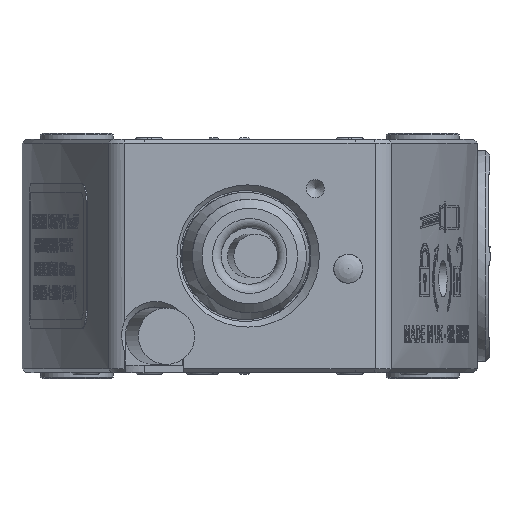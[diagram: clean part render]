
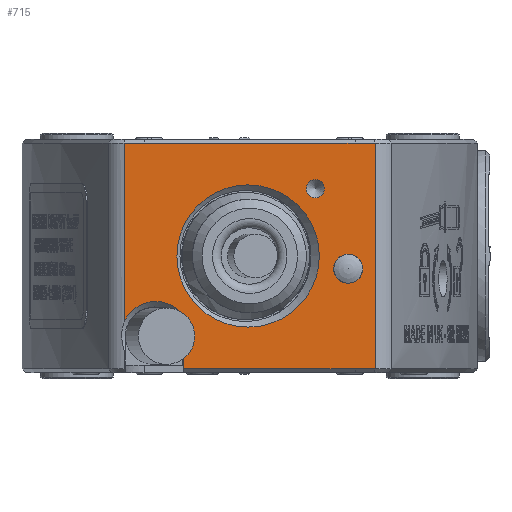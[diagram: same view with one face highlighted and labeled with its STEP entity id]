
A CAD part, left-side view. The second image highlights one B-rep face of the part: STEP entity #715.
In plain terms, the highlighted planar face has unit normal (-1, 0, 0).
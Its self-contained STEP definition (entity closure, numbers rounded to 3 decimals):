
#715 = ADVANCED_FACE( '', ( #5957, #5958, #5959, #5960 ), #5961, .T. );
#5957 = FACE_BOUND( '', #15589, .T. );
#5958 = FACE_BOUND( '', #15590, .T. );
#5959 = FACE_OUTER_BOUND( '', #15591, .T. );
#5960 = FACE_BOUND( '', #15592, .T. );
#5961 = PLANE( '', #15593 );
#15589 = EDGE_LOOP( '', ( #30123 ) );
#15590 = EDGE_LOOP( '', ( #30124 ) );
#15591 = EDGE_LOOP( '', ( #30125, #30126, #30127, #30128, #30129, #30130 ) );
#15592 = EDGE_LOOP( '', ( #30131 ) );
#15593 = AXIS2_PLACEMENT_3D( '', #30132, #30133, #30134 );
#30123 = ORIENTED_EDGE( '', *, *, #65708, .T. );
#30124 = ORIENTED_EDGE( '', *, *, #65709, .F. );
#30125 = ORIENTED_EDGE( '', *, *, #65710, .F. );
#30126 = ORIENTED_EDGE( '', *, *, #64579, .T. );
#30127 = ORIENTED_EDGE( '', *, *, #65671, .F. );
#30128 = ORIENTED_EDGE( '', *, *, #65688, .T. );
#30129 = ORIENTED_EDGE( '', *, *, #65618, .T. );
#30130 = ORIENTED_EDGE( '', *, *, #65607, .T. );
#30131 = ORIENTED_EDGE( '', *, *, #65609, .T. );
#30132 = CARTESIAN_POINT( '', ( -100., 13.781, 12. ) );
#30133 = DIRECTION( '', ( -1., 0., 0. ) );
#30134 = DIRECTION( '', ( 0., -1., 0. ) );
#64579 = EDGE_CURVE( '', #77330, #77334, #77336, .T. );
#65607 = EDGE_CURVE( '', #79141, #79139, #79142, .T. );
#65609 = EDGE_CURVE( '', #79144, #79144, #79145, .T. );
#65618 = EDGE_CURVE( '', #79156, #79141, #79161, .T. );
#65671 = EDGE_CURVE( '', #79261, #77334, #79263, .T. );
#65688 = EDGE_CURVE( '', #79261, #79156, #79288, .T. );
#65708 = EDGE_CURVE( '', #79321, #79321, #79322, .T. );
#65709 = EDGE_CURVE( '', #79323, #79323, #79324, .T. );
#65710 = EDGE_CURVE( '', #77330, #79139, #79325, .T. );
#77330 = VERTEX_POINT( '', #98847 );
#77334 = VERTEX_POINT( '', #98852 );
#77336 = LINE( '', #98854, #98855 );
#79139 = VERTEX_POINT( '', #102377 );
#79141 = VERTEX_POINT( '', #102380 );
#79142 = LINE( '', #102381, #102382 );
#79144 = VERTEX_POINT( '', #102393 );
#79145 = ELLIPSE( '', #102394, 7.818, 7.808 );
#79156 = VERTEX_POINT( '', #102406 );
#79161 = ELLIPSE( '', #102429, 3.807, 3.802 );
#79261 = VERTEX_POINT( '', #102540 );
#79263 = LINE( '', #102545, #102546 );
#79288 = LINE( '', #102600, #102601 );
#79321 = VERTEX_POINT( '', #102695 );
#79322 = CIRCLE( '', #102696, 1. );
#79323 = VERTEX_POINT( '', #102697 );
#79324 = ELLIPSE( '', #102698, 1.588, 1.588 );
#79325 = LINE( '', #102699, #102700 );
#98847 = CARTESIAN_POINT( '', ( -100., -13.781, -12.4 ) );
#98852 = CARTESIAN_POINT( '', ( -100., -13.781, 12.4 ) );
#98854 = CARTESIAN_POINT( '', ( -100., -13.781, 12. ) );
#98855 = VECTOR( '', #134094, 1000. );
#102377 = CARTESIAN_POINT( '', ( -100., 7.246, -12.4 ) );
#102380 = CARTESIAN_POINT( '', ( -100., 7.246, -11.05 ) );
#102381 = CARTESIAN_POINT( '', ( -100., 7.246, 1.6 ) );
#102382 = VECTOR( '', #135630, 1000. );
#102393 = CARTESIAN_POINT( '', ( -100., 7.982, 0. ) );
#102394 = AXIS2_PLACEMENT_3D( '', #135631, #135632, #135633 );
#102406 = CARTESIAN_POINT( '', ( -100., 13.781, -7.228 ) );
#102429 = AXIS2_PLACEMENT_3D( '', #135650, #135651, #135652 );
#102540 = CARTESIAN_POINT( '', ( -100., 13.781, 12.4 ) );
#102545 = CARTESIAN_POINT( '', ( -100., 16.77, 12.4 ) );
#102546 = VECTOR( '', #135790, 1000. );
#102600 = CARTESIAN_POINT( '', ( -100., 13.781, 12. ) );
#102601 = VECTOR( '', #135811, 1000. );
#102695 = CARTESIAN_POINT( '', ( -100., -7.228, 8.4 ) );
#102696 = AXIS2_PLACEMENT_3D( '', #135839, #135840, #135841 );
#102697 = CARTESIAN_POINT( '', ( -100., -9.226, -1.4 ) );
#102698 = AXIS2_PLACEMENT_3D( '', #135842, #135843, #135844 );
#102699 = CARTESIAN_POINT( '', ( -100., 6.9, -12.4 ) );
#102700 = VECTOR( '', #135845, 1000. );
#134094 = DIRECTION( '', ( 0., 0., 1. ) );
#135630 = DIRECTION( '', ( 0., 0., -1. ) );
#135631 = CARTESIAN_POINT( '', ( -100., 0.164, 0. ) );
#135632 = DIRECTION( '', ( 1., 0., 0. ) );
#135633 = DIRECTION( '', ( 0., -1., 0. ) );
#135650 = CARTESIAN_POINT( '', ( -100., 10.315, -8.8 ) );
#135651 = DIRECTION( '', ( 1., 0., 0. ) );
#135652 = DIRECTION( '', ( 0., 1., 0. ) );
#135790 = DIRECTION( '', ( 0., -1., 0. ) );
#135811 = DIRECTION( '', ( 0., 0., -1. ) );
#135839 = CARTESIAN_POINT( '', ( -100., -7.228, 7.4 ) );
#135840 = DIRECTION( '', ( 1., 0., 0. ) );
#135841 = DIRECTION( '', ( 0., 0., 1. ) );
#135842 = CARTESIAN_POINT( '', ( -100., -10.814, -1.4 ) );
#135843 = DIRECTION( '', ( -1., 0., 0. ) );
#135844 = DIRECTION( '', ( 0., 1., 0. ) );
#135845 = DIRECTION( '', ( 0., 1., 0. ) );
